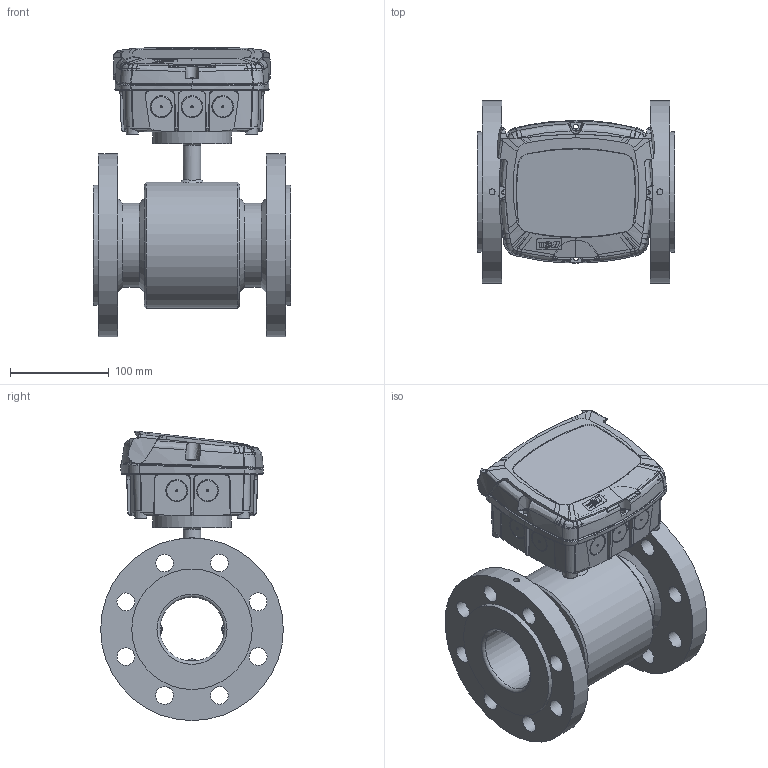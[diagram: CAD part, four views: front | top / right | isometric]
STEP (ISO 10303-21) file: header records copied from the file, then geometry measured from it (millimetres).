
FILE_DESCRIPTION((''),'2;1');
FILE_NAME('C:\Users\Claus\Dropbox\Projects 2011 - 2012\MJK Automation AS\DN 65 - DIN EN-1095-1.stp','2014-10-24T15:19:01',('Claus'),(''),'Autodesk Inventor 2013','Autodesk Inventor 2013','');
FILE_SCHEMA(('AUTOMOTIVE_DESIGN { 1 0 10303 214 1 1 1 1 }'));
Length unit declared in the file: millimetre
Products named in the file (7): DN 65 - DIN EN-1095-1; FC_MagFlux_assembly_r1; CH Bund ml; FC Top rev 06.04; CH 03.02; Electrode group DN15 - DN32
Assembly tree (8 placements, depth 3):
  DN 65 - DIN EN-1095-1
    DN 65 - DIN EN-1095-1
    FC_MagFlux_assembly_r1
      CH Bund ml
      FC Top rev 06.04
      CH 03.02
    Electrode group DN15 - DN32  x3
Bounding box: 200 x 185 x 292.84 mm (x, y, z)
Volume: 2382017.5 mm3; surface area: 483827.6 mm2
Topology: 10 solids, 10 shells, 2935 faces, 7994 edges, 5203 vertices
Faces by surface type: bspline 1752, plane 810, cylinder 210, cone 123, torus 25, revolution 9, sphere 6
Full cylindrical faces by diameter (mm): 2.5 x3, 3 x6, 4 x1, 6 x2, 6.5 x4, 7.042 x4, 8 x3, 8.048 x4, 12.072 x4, 15 x1, 18 x17, 18.108 x1, 64 x1, 65 x1, 85 x2, 122 x2, 128 x1, 185 x2
Entity records: 234060 total; most frequent: CARTESIAN_POINT 171564, ORIENTED_EDGE 15496, DIRECTION 7757, EDGE_CURVE 7748, VERTEX_POINT 5141, EDGE_LOOP 3273, VECTOR 3112, LINE 3112
